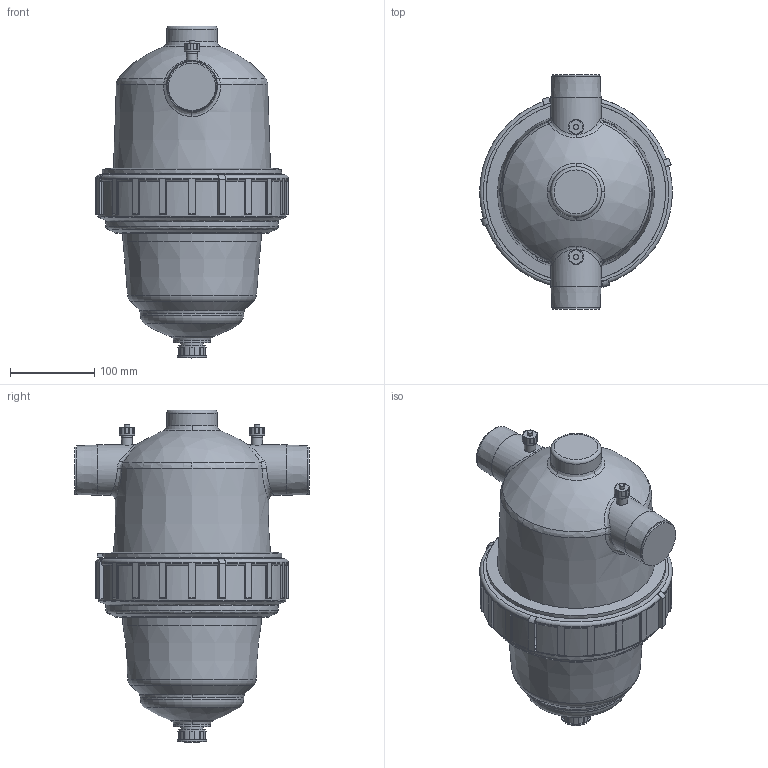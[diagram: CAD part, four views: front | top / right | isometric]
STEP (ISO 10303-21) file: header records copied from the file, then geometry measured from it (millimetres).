
FILE_DESCRIPTION( ( 'Unknown' ), '1' );
FILE_NAME( 'D:/SE/for Itzik/2.0 T FILTER-CAP_2.0inch.stp', 'Unknown', ( 'Unknown' ), ( 'Unknown' ), 'XStep 1.0', 'Unknown', ' ' );
FILE_SCHEMA( ( 'CONFIG_CONTROL_DESIGN' ) );
Length unit declared in the file: millimetre
Products named in the file (1): 1
Bounding box: 228 x 278 x 393.19 mm (x, y, z)
Volume: 8579514.2 mm3; surface area: 284660.6 mm2
Topology: 1 solids, 1 shells, 432 faces, 1132 edges, 719 vertices
Faces by surface type: plane 215, cylinder 124, torus 47, bspline 24, cone 13, revolution 6, sphere 3
Full cylindrical faces by diameter (mm): 6.8 x2, 13.157 x2, 18 x2, 26.441 x1, 31.5 x1, 34.7 x1, 43.8 x1, 55.8 x2, 60 x3, 122.5 x1, 186 x1, 204 x1, 222.8 x1
Entity records: 16813 total; most frequent: CARTESIAN_POINT 6651, ORIENTED_EDGE 2160, DIRECTION 2039, EDGE_CURVE 1080, AXIS2_PLACEMENT_3D 788, VERTEX_POINT 704, EDGE_LOOP 486, LINE 457
